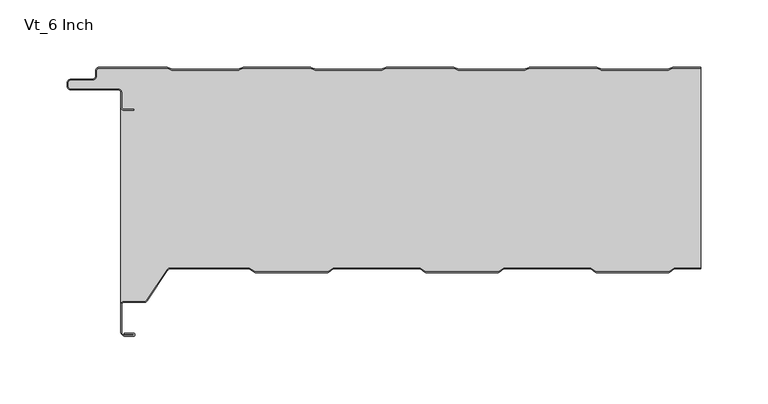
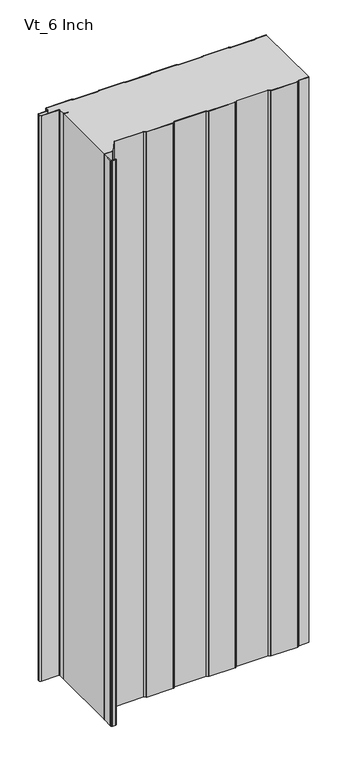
"""IFC4 building model written with IfcOpenShell, lengths in millimetres: plate geometry, KIP_R19_CP_KingSeam_Vt_Roof Panel : Vt_6 Inch."""

import ifcopenshell
import ifcopenshell.guid

model = None  # the IFC model being written
_history = None  # IfcOwnerHistory: only IFC2X3 demands one
_inside = {}  # id of a spatial element -> (the spatial element, [elements in it])
_under = {}  # id of a project, library or spatial element -> (it, [spatial elements below it])
_declared = {}  # id of a project -> (the project, [libraries it declares])
_typed = {}  # id of a type object -> (the type object, [elements of that type])
_made_of = {}  # id of a material, layer set ... -> (it, [elements and type objects made of it])


def new_model(schema):
    """Start an empty IFC model of exactly this schema.

    Asked for "IFC4X3", IfcOpenShell would pick the latest addendum, in which some entities
    have other attributes; the version numbers below select the first issue.
    IFC2X3 requires an IfcOwnerHistory on every rooted entity: one is made here for all.
    """
    global model, _history
    if schema == "IFC4X3":
        model = ifcopenshell.file(schema_version=(4, 3, 0, 0))
    else:
        model = ifcopenshell.file(schema=schema)
    _inside.clear()
    _under.clear()
    _declared.clear()
    _typed.clear()
    _made_of.clear()
    _history = None
    if model.schema == "IFC2X3":
        org = make("IfcOrganization", Name="unknown")
        user = make(
            "IfcPersonAndOrganization",
            ThePerson=make("IfcPerson", FamilyName="unknown"),
            TheOrganization=org,
        )
        app = make(
            "IfcApplication",
            ApplicationDeveloper=org,
            Version="unknown",
            ApplicationFullName="unknown",
            ApplicationIdentifier="unknown",
        )
        _history = make(
            "IfcOwnerHistory",
            OwningUser=user,
            OwningApplication=app,
            ChangeAction="ADDED",
            CreationDate=0,
        )
    return model


def make(cls, **values):
    """One entity of the class cls with the attributes given. An attribute that is None is left unset."""
    return model.create_entity(
        cls, **{name: value for name, value in values.items() if value is not None}
    )


def rooted(cls, **values):
    """An entity with a GlobalId (a new one), such as an element, a storey or a relation."""
    return make(cls, GlobalId=ifcopenshell.guid.new(), OwnerHistory=_history, **values)


def si_unit(unit_type, name, prefix=None):
    """IfcSIUnit, for example si_unit("LENGTHUNIT", "METRE", prefix="MILLI")."""
    return make("IfcSIUnit", UnitType=unit_type, Prefix=prefix, Name=name)


def assignment(units):
    """IfcUnitAssignment: the units of a project."""
    return None if units is None else make("IfcUnitAssignment", Units=units)


def point(xyz):
    """IfcCartesianPoint."""
    return None if xyz is None else make("IfcCartesianPoint", Coordinates=xyz)


def direction(xyz):
    """IfcDirection."""
    return None if xyz is None else make("IfcDirection", DirectionRatios=xyz)


def frame(location, z_axis=None, x_axis=None):
    """IfcAxis2Placement3D, a coordinate frame: its origin and axes. An axis left out is left unset."""
    return make(
        "IfcAxis2Placement3D",
        Location=point(location),
        Axis=direction(z_axis),
        RefDirection=direction(x_axis),
    )


def frame_2d(location, x_axis=None):
    """IfcAxis2Placement2D, a coordinate frame in the plane: its origin and x axis."""
    return make(
        "IfcAxis2Placement2D", Location=point(location), RefDirection=direction(x_axis)
    )


def origin():
    """The frame at (0, 0, 0) with its axes left unset."""
    return frame((0.0, 0.0, 0.0))


def origin_with_axes():
    """The frame at (0, 0, 0) with the z axis (0, 0, 1) and the x axis (1, 0, 0) written out."""
    return frame((0.0, 0.0, 0.0), z_axis=(0.0, 0.0, 1.0), x_axis=(1.0, 0.0, 0.0))


def place(relative_to, where):
    """IfcLocalPlacement: puts the frame where relative to a parent placement (None: the world)."""
    return make(
        "IfcLocalPlacement", PlacementRelTo=relative_to, RelativePlacement=where
    )


def context(
    kind, dimensions, precision=None, world=None, true_north=None, identifier=None
):
    """IfcGeometricRepresentationContext, for example the 3D "Model" context."""
    return make(
        "IfcGeometricRepresentationContext",
        ContextIdentifier=identifier,
        ContextType=kind,
        CoordinateSpaceDimension=dimensions,
        Precision=precision,
        WorldCoordinateSystem=world,
        TrueNorth=true_north,
    )


def project(units=None, contexts=None):
    """IfcProject with its units and contexts."""
    return rooted(
        "IfcProject",
        Name="project",
        RepresentationContexts=contexts,
        UnitsInContext=assignment(units),
    )


def spatial(cls, under=None, at=None, **own):
    """A site, building, storey or space (cls), placed at a placement, below another one or the project."""
    s = rooted(cls, ObjectPlacement=at, **own)
    if under is not None:
        _under.setdefault(under.id(), (under, []))[1].append(s)
    return s


def polyline(points):
    """IfcPolyline through the points."""
    return make("IfcPolyline", Points=[point(p) for p in points])


def circle_curve(where, radius):
    """IfcCircle in the frame where."""
    return make("IfcCircle", Position=where, Radius=radius)


def trimmed(basis, trim1, trim2, sense, master):
    """IfcTrimmedCurve: the piece of a basis curve between two trims."""
    return make(
        "IfcTrimmedCurve",
        BasisCurve=basis,
        Trim1=trim1,
        Trim2=trim2,
        SenseAgreement=sense,
        MasterRepresentation=master,
    )


def segment(curve, same_sense, transition):
    """IfcCompositeCurveSegment."""
    return make(
        "IfcCompositeCurveSegment",
        Transition=transition,
        SameSense=same_sense,
        ParentCurve=curve,
    )


def composite_curve(segments, self_intersect=None):
    """IfcCompositeCurve: segments joined end to end."""
    return make("IfcCompositeCurve", Segments=segments, SelfIntersect=self_intersect)


def outline(outer, holes=None, kind="AREA"):
    """IfcArbitraryClosedProfileDef: a profile drawn as a closed curve; with holes, ...WithVoids."""
    if holes is None:
        return make("IfcArbitraryClosedProfileDef", ProfileType=kind, OuterCurve=outer)
    return make(
        "IfcArbitraryProfileDefWithVoids",
        ProfileType=kind,
        OuterCurve=outer,
        InnerCurves=holes,
    )


def extrude(swept, where, along, depth):
    """IfcExtrudedAreaSolid: the profile swept, set in the frame where, extruded along a direction by depth."""
    return make(
        "IfcExtrudedAreaSolid",
        SweptArea=swept,
        Position=where,
        ExtrudedDirection=direction(along),
        Depth=depth,
    )


def shape(context_of_items, identifier, shape_type, items):
    """IfcShapeRepresentation: the items that make up one representation, for example the "Body"."""
    return make(
        "IfcShapeRepresentation",
        ContextOfItems=context_of_items,
        RepresentationIdentifier=identifier,
        RepresentationType=shape_type,
        Items=items,
    )


def source(mapping_origin, context_of_items, identifier, shape_type, items):
    """IfcRepresentationMap: a shape defined once, which mapped items show again and again."""
    return make(
        "IfcRepresentationMap",
        MappingOrigin=mapping_origin,
        MappedRepresentation=shape(context_of_items, identifier, shape_type, items),
    )


def transform(
    local_origin,
    x_axis=None,
    y_axis=None,
    z_axis=None,
    scale=None,
    scale2=None,
    scale3=None,
    uniform=True,
):
    """IfcCartesianTransformationOperator3D, or its non-uniform kind. x_axis, y_axis, z_axis: its Axis1, 2, 3."""
    if uniform:
        return make(
            "IfcCartesianTransformationOperator3D",
            Axis1=direction(x_axis),
            Axis2=direction(y_axis),
            LocalOrigin=point(local_origin),
            Scale=scale,
            Axis3=direction(z_axis),
        )
    return make(
        "IfcCartesianTransformationOperator3DnonUniform",
        Axis1=direction(x_axis),
        Axis2=direction(y_axis),
        LocalOrigin=point(local_origin),
        Scale=scale,
        Axis3=direction(z_axis),
        Scale2=scale2,
        Scale3=scale3,
    )


def mapped(mapping_source, mapping_target):
    """IfcMappedItem: shows the shape of a source again, moved by a transform."""
    return make(
        "IfcMappedItem", MappingSource=mapping_source, MappingTarget=mapping_target
    )


def made_of(thing, what):
    """Note that an element or type object is made of a material, layer set ...; save() writes the relation."""
    if what is not None:
        _made_of.setdefault(what.id(), (what, []))[1].append(thing)
    return thing


def element(
    cls,
    number,
    at=None,
    inside=None,
    cuts=None,
    type_object=None,
    material=None,
    context=None,
    identifier="Body",
    shape_type=None,
    held_by="IfcProductDefinitionShape",
    body=None,
    shapes=None,
    **own,
):
    """One element of the class cls, such as IfcWall. Its Tag is "e" and its number.

    at: its placement. inside: the storey or other place that contains it. cuts: it is an
    opening in that element (IfcRelVoidsElement). A single representation is given by context,
    identifier, shape_type and body (its items); several are given by shapes. held_by: the class
    of the entity that holds the representations. save() writes the other relations.
    """
    e = rooted(cls, Tag="e%d" % number, ObjectPlacement=at, **own)
    if body is not None:
        shapes = [shape(context, identifier, shape_type, body)]
    if shapes is not None:
        e.Representation = make(held_by, Representations=shapes)
    if inside is not None:
        _inside.setdefault(inside.id(), (inside, []))[1].append(e)
    if cuts is not None:
        rooted(
            "IfcRelVoidsElement", RelatingBuildingElement=cuts, RelatedOpeningElement=e
        )
    if type_object is not None:
        _typed.setdefault(type_object.id(), (type_object, []))[1].append(e)
    return made_of(e, material)


def aggregate(whole, parts):
    """IfcRelAggregates: a whole, such as a stair, and the parts it consists of."""
    return rooted("IfcRelAggregates", RelatingObject=whole, RelatedObjects=parts)


def save(model, path):
    """Write the relations noted so far, then the file.

    IfcRelAggregates (storeys below a building ...), IfcRelContainedInSpatialStructure (elements
    in a storey), IfcRelDefinesByType, IfcRelAssociatesMaterial and IfcRelDeclares: one each for
    every whole, place, type object, material and project.
    """
    for whole, parts in _under.values():
        aggregate(whole, parts)
    for where, things in _inside.values():
        rooted(
            "IfcRelContainedInSpatialStructure",
            RelatedElements=things,
            RelatingStructure=where,
        )
    for kind, things in _typed.values():
        rooted("IfcRelDefinesByType", RelatedObjects=things, RelatingType=kind)
    for what, things in _made_of.values():
        rooted("IfcRelAssociatesMaterial", RelatedObjects=things, RelatingMaterial=what)
    for by, libraries in _declared.values():
        rooted("IfcRelDeclares", RelatingContext=by, RelatedDefinitions=libraries)
    model.write(path)


def vt_6_inch_caa78155(model_context):
    return source(origin(), model_context, "Body", "SweptSolid", [
        extrude(outline(composite_curve([segment(trimmed(circle_curve(frame_2d((-213.9200605, -30.0)), 2.0), [point((-213.9200605, -32.0))], [point((-215.9200605, -30.0))], False, "CARTESIAN"), True, "CONTINUOUS"), segment(polyline([(-215.9200605, -30.0), (-215.9200605, -18.5)]), True, "CONTINUOUS"), segment(trimmed(circle_curve(frame_2d((-217.4200605, -18.5)), 1.5), [point((-215.9200605, -18.5))], [point((-217.4200605, -17.0))], True, "CARTESIAN"), True, "CONTINUOUS"), segment(polyline([(-217.4200605, -17.0), (-252.9200605, -17.0)]), True, "CONTINUOUS"), segment(trimmed(circle_curve(frame_2d((-252.9200605, -14.0)), 3.0), [point((-252.9200605, -17.0))], [point((-255.9200605, -14.0))], False, "CARTESIAN"), True, "CONTINUOUS"), segment(polyline([(-255.9200605, -14.0), (-255.9200605, -12.0)]), True, "CONTINUOUS"), segment(trimmed(circle_curve(frame_2d((-252.9200605, -12.0)), 3.0), [point((-255.9200605, -12.0))], [point((-252.9200605, -9.0))], False, "CARTESIAN"), True, "CONTINUOUS"), segment(polyline([(-252.9200605, -9.0), (-237.2042607, -9.0)]), True, "CONTINUOUS"), segment(trimmed(circle_curve(frame_2d((-237.2042607, -6.5)), 2.5), [point((-237.2042607, -9.0))], [point((-234.7042607, -6.5))], True, "CARTESIAN"), True, "CONTINUOUS"), segment(polyline([(-234.7042607, -6.5), (-234.7042607, -3.0)]), True, "CONTINUOUS"), segment(trimmed(circle_curve(frame_2d((-231.7042607, -3.0)), 3.0), [point((-234.7042607, -3.0))], [point((-231.7042607, 0.0))], False, "CARTESIAN"), True, "CONTINUOUS"), segment(polyline([(-231.7042607, 0.0), (-181.9469381, 0.0)]), True, "CONTINUOUS"), segment(trimmed(circle_curve(frame_2d((-181.9469381, -3.2)), 3.2), [point((-181.9469381, 0.0))], [point((-180.677843, -0.2624164))], False, "CARTESIAN"), True, "CONTINUOUS"), segment(polyline([(-180.677843, -0.2624164), (-178.2877438, -1.2949872)]), True, "CONTINUOUS"), segment(trimmed(circle_curve(frame_2d((-177.2962632, 1.0)), 2.5), [point((-178.2877438, -1.2949872))], [point((-177.2962632, -1.5))], True, "CARTESIAN"), True, "CONTINUOUS"), segment(polyline([(-177.2962632, -1.5), (-128.9122581, -1.5)]), True, "CONTINUOUS"), segment(trimmed(circle_curve(frame_2d((-128.9122581, 1.0)), 2.5), [point((-128.9122581, -1.5))], [point((-127.9207775, -1.2949872))], True, "CARTESIAN"), True, "CONTINUOUS"), segment(polyline([(-127.9207775, -1.2949872), (-125.5306783, -0.2624164)]), True, "CONTINUOUS"), segment(trimmed(circle_curve(frame_2d((-124.2615832, -3.2)), 3.2), [point((-125.5306783, -0.2624164))], [point((-124.2615832, 0.0))], False, "CARTESIAN"), True, "CONTINUOUS"), segment(polyline([(-124.2615832, 0.0), (-75.3469381, 0.0)]), True, "CONTINUOUS"), segment(trimmed(circle_curve(frame_2d((-75.3469381, -3.2)), 3.2), [point((-75.3469381, 0.0))], [point((-74.077843, -0.2624164))], False, "CARTESIAN"), True, "CONTINUOUS"), segment(polyline([(-74.077843, -0.2624164), (-71.6877438, -1.2949872)]), True, "CONTINUOUS"), segment(trimmed(circle_curve(frame_2d((-70.6962632, 1.0)), 2.5), [point((-71.6877438, -1.2949872))], [point((-70.6962632, -1.5))], True, "CARTESIAN"), True, "CONTINUOUS"), segment(polyline([(-70.6962632, -1.5), (-22.3122581, -1.5)]), True, "CONTINUOUS"), segment(trimmed(circle_curve(frame_2d((-22.3122581, 1.0)), 2.5), [point((-22.3122581, -1.5))], [point((-21.3207775, -1.2949872))], True, "CARTESIAN"), True, "CONTINUOUS"), segment(polyline([(-21.3207775, -1.2949872), (-18.9306783, -0.2624164)]), True, "CONTINUOUS"), segment(trimmed(circle_curve(frame_2d((-17.6615832, -3.2)), 3.2), [point((-18.9306783, -0.2624164))], [point((-17.6615832, 0.0))], False, "CARTESIAN"), True, "CONTINUOUS"), segment(polyline([(-17.6615832, 0.0), (31.2530619, 0.0)]), True, "CONTINUOUS"), segment(trimmed(circle_curve(frame_2d((31.2530619, -3.2)), 3.2), [point((31.2530619, 0.0))], [point((32.522157, -0.2624164))], False, "CARTESIAN"), True, "CONTINUOUS"), segment(polyline([(32.522157, -0.2624164), (34.9122562, -1.2949872)]), True, "CONTINUOUS"), segment(trimmed(circle_curve(frame_2d((35.9037368, 1.0)), 2.5), [point((34.9122562, -1.2949872))], [point((35.9037368, -1.5))], True, "CARTESIAN"), True, "CONTINUOUS"), segment(polyline([(35.9037368, -1.5), (84.2877419, -1.5)]), True, "CONTINUOUS"), segment(trimmed(circle_curve(frame_2d((84.2877419, 1.0)), 2.5), [point((84.2877419, -1.5))], [point((85.2792225, -1.2949872))], True, "CARTESIAN"), True, "CONTINUOUS"), segment(polyline([(85.2792225, -1.2949872), (87.6693217, -0.2624164)]), True, "CONTINUOUS"), segment(trimmed(circle_curve(frame_2d((88.9384168, -3.2)), 3.2), [point((87.6693217, -0.2624164))], [point((88.9384168, 0.0))], False, "CARTESIAN"), True, "CONTINUOUS"), segment(polyline([(88.9384168, 0.0), (137.8530619, 0.0)]), True, "CONTINUOUS"), segment(trimmed(circle_curve(frame_2d((137.8530619, -3.2)), 3.2), [point((137.8530619, 0.0))], [point((139.122157, -0.2624164))], False, "CARTESIAN"), True, "CONTINUOUS"), segment(polyline([(139.122157, -0.2624164), (141.5122562, -1.2949872)]), True, "CONTINUOUS"), segment(trimmed(circle_curve(frame_2d((142.5037368, 1.0)), 2.5), [point((141.5122562, -1.2949872))], [point((142.5037368, -1.5))], True, "CARTESIAN"), True, "CONTINUOUS"), segment(polyline([(142.5037368, -1.5), (190.8877419, -1.5)]), True, "CONTINUOUS"), segment(trimmed(circle_curve(frame_2d((190.8877419, 1.0)), 2.5), [point((190.8877419, -1.5))], [point((191.8792225, -1.2949872))], True, "CARTESIAN"), True, "CONTINUOUS"), segment(polyline([(191.8792225, -1.2949872), (194.2693217, -0.2624164)]), True, "CONTINUOUS"), segment(trimmed(circle_curve(frame_2d((195.5384168, -3.2)), 3.2), [point((194.2693217, -0.2624164))], [point((195.5384168, 0.0))], False, "CARTESIAN"), True, "CONTINUOUS"), segment(polyline([(195.5384168, 0.0), (215.9042607, 0.0), (215.9042607, -0.8), (195.5384168, -0.8)]), True, "CONTINUOUS"), segment(trimmed(circle_curve(frame_2d((195.5384168, -3.2)), 2.4), [point((195.5384168, -0.8))], [point((194.5865954, -0.9968123))], True, "CARTESIAN"), True, "CONTINUOUS"), segment(polyline([(194.5865954, -0.9968123), (192.1964962, -2.0293831)]), True, "CONTINUOUS"), segment(trimmed(circle_curve(frame_2d((190.8877419, 1.0)), 3.3), [point((192.1964962, -2.0293831))], [point((190.8877419, -2.3))], False, "CARTESIAN"), True, "CONTINUOUS"), segment(polyline([(190.8877419, -2.3), (142.5037368, -2.3)]), True, "CONTINUOUS"), segment(trimmed(circle_curve(frame_2d((142.5037368, 1.0)), 3.3), [point((142.5037368, -2.3))], [point((141.1949824, -2.0293831))], False, "CARTESIAN"), True, "CONTINUOUS"), segment(polyline([(141.1949824, -2.0293831), (138.8048832, -0.9968123)]), True, "CONTINUOUS"), segment(trimmed(circle_curve(frame_2d((137.8530619, -3.2)), 2.4), [point((138.8048832, -0.9968123))], [point((137.8530619, -0.8))], True, "CARTESIAN"), True, "CONTINUOUS"), segment(polyline([(137.8530619, -0.8), (88.9384168, -0.8)]), True, "CONTINUOUS"), segment(trimmed(circle_curve(frame_2d((88.9384168, -3.2)), 2.4), [point((88.9384168, -0.8))], [point((87.9865954, -0.9968123))], True, "CARTESIAN"), True, "CONTINUOUS"), segment(polyline([(87.9865954, -0.9968123), (85.5964962, -2.0293831)]), True, "CONTINUOUS"), segment(trimmed(circle_curve(frame_2d((84.2877419, 1.0)), 3.3), [point((85.5964962, -2.0293831))], [point((84.2877419, -2.3))], False, "CARTESIAN"), True, "CONTINUOUS"), segment(polyline([(84.2877419, -2.3), (35.9037368, -2.3)]), True, "CONTINUOUS"), segment(trimmed(circle_curve(frame_2d((35.9037368, 1.0)), 3.3), [point((35.9037368, -2.3))], [point((34.5949824, -2.0293831))], False, "CARTESIAN"), True, "CONTINUOUS"), segment(polyline([(34.5949824, -2.0293831), (32.2048832, -0.9968123)]), True, "CONTINUOUS"), segment(trimmed(circle_curve(frame_2d((31.2530619, -3.2)), 2.4), [point((32.2048832, -0.9968123))], [point((31.2530619, -0.8))], True, "CARTESIAN"), True, "CONTINUOUS"), segment(polyline([(31.2530619, -0.8), (-17.6615832, -0.8)]), True, "CONTINUOUS"), segment(trimmed(circle_curve(frame_2d((-17.6615832, -3.2)), 2.4), [point((-17.6615832, -0.8))], [point((-18.6134046, -0.9968123))], True, "CARTESIAN"), True, "CONTINUOUS"), segment(polyline([(-18.6134046, -0.9968123), (-21.0035038, -2.0293831)]), True, "CONTINUOUS"), segment(trimmed(circle_curve(frame_2d((-22.3122581, 1.0)), 3.3), [point((-21.0035038, -2.0293831))], [point((-22.3122581, -2.3))], False, "CARTESIAN"), True, "CONTINUOUS"), segment(polyline([(-22.3122581, -2.3), (-70.6962632, -2.3)]), True, "CONTINUOUS"), segment(trimmed(circle_curve(frame_2d((-70.6962632, 1.0)), 3.3), [point((-70.6962632, -2.3))], [point((-72.0050176, -2.0293831))], False, "CARTESIAN"), True, "CONTINUOUS"), segment(polyline([(-72.0050176, -2.0293831), (-74.3951168, -0.9968123)]), True, "CONTINUOUS"), segment(trimmed(circle_curve(frame_2d((-75.3469381, -3.2)), 2.4), [point((-74.3951168, -0.9968123))], [point((-75.3469381, -0.8))], True, "CARTESIAN"), True, "CONTINUOUS"), segment(polyline([(-75.3469381, -0.8), (-124.2615832, -0.8)]), True, "CONTINUOUS"), segment(trimmed(circle_curve(frame_2d((-124.2615832, -3.2)), 2.4), [point((-124.2615832, -0.8))], [point((-125.2134046, -0.9968123))], True, "CARTESIAN"), True, "CONTINUOUS"), segment(polyline([(-125.2134046, -0.9968123), (-127.6035038, -2.0293831)]), True, "CONTINUOUS"), segment(trimmed(circle_curve(frame_2d((-128.9122581, 1.0)), 3.3), [point((-127.6035038, -2.0293831))], [point((-128.9122581, -2.3))], False, "CARTESIAN"), True, "CONTINUOUS"), segment(polyline([(-128.9122581, -2.3), (-177.2962632, -2.3)]), True, "CONTINUOUS"), segment(trimmed(circle_curve(frame_2d((-177.2962632, 1.0)), 3.3), [point((-177.2962632, -2.3))], [point((-178.6050176, -2.0293831))], False, "CARTESIAN"), True, "CONTINUOUS"), segment(polyline([(-178.6050176, -2.0293831), (-180.9951168, -0.9968123)]), True, "CONTINUOUS"), segment(trimmed(circle_curve(frame_2d((-181.9469381, -3.2)), 2.4), [point((-180.9951168, -0.9968123))], [point((-181.9469381, -0.8))], True, "CARTESIAN"), True, "CONTINUOUS"), segment(polyline([(-181.9469381, -0.8), (-231.7042607, -0.8)]), True, "CONTINUOUS"), segment(trimmed(circle_curve(frame_2d((-232.1480113, -2.8161925)), 2.0644483), [point((-231.7042607, -0.8))], [point((-234.2042607, -3.0))], True, "CARTESIAN"), True, "CONTINUOUS"), segment(polyline([(-234.2042607, -3.0), (-234.2042607, -6.5)]), True, "CONTINUOUS"), segment(trimmed(circle_curve(frame_2d((-237.2042607, -6.5)), 3.0), [point((-234.2042607, -6.5))], [point((-237.2042607, -9.5))], False, "CARTESIAN"), True, "CONTINUOUS"), segment(polyline([(-237.2042607, -9.5), (-252.9200605, -9.5)]), True, "CONTINUOUS"), segment(trimmed(circle_curve(frame_2d((-252.9200605, -12.0)), 2.5), [point((-252.9200605, -9.5))], [point((-255.4200605, -12.0))], True, "CARTESIAN"), True, "CONTINUOUS"), segment(polyline([(-255.4200605, -12.0), (-255.4200605, -14.0)]), True, "CONTINUOUS"), segment(trimmed(circle_curve(frame_2d((-252.9200605, -14.0)), 2.5), [point((-255.4200605, -14.0))], [point((-252.9200605, -16.5))], True, "CARTESIAN"), True, "CONTINUOUS"), segment(polyline([(-252.9200605, -16.5), (-217.4200605, -16.5)]), True, "CONTINUOUS"), segment(trimmed(circle_curve(frame_2d((-217.4200605, -18.5)), 2.0), [point((-217.4200605, -16.5))], [point((-215.4200605, -18.5))], False, "CARTESIAN"), True, "CONTINUOUS"), segment(polyline([(-215.4200605, -18.5), (-215.4200605, -29.7)]), True, "CONTINUOUS"), segment(trimmed(circle_curve(frame_2d((-213.9200605, -29.7)), 1.5), [point((-215.4200605, -29.7))], [point((-213.9200605, -31.2))], True, "CARTESIAN"), True, "CONTINUOUS"), segment(polyline([(-213.9200605, -31.2), (-206.4200605, -31.2), (-206.4200605, -32.0), (-213.9200605, -32.0)]), True, "CONTINUOUS")], self_intersect=False)), origin_with_axes(), (0.0, 0.0, 1.0), 1219.2),
        extrude(outline(composite_curve([segment(polyline([(196.268218, -149.6158803), (215.9042607, -149.6158803), (215.9042607, -150.1158804), (196.2682176, -150.1158804), (192.8085228, -152.6158085)]), True, "CONTINUOUS"), segment(trimmed(circle_curve(frame_2d((191.929996, -151.3999998)), 1.5), [point((192.8085228, -152.6158085))], [point((191.9290246, -152.8999995))], False, "CARTESIAN"), True, "CONTINUOUS"), segment(polyline([(191.9290246, -152.8999995), (138.1799961, -152.8999995)]), True, "CONTINUOUS"), segment(trimmed(circle_curve(frame_2d((138.1799961, -151.3999995)), 1.5), [point((138.1799961, -152.8999995))], [point((137.3014693, -152.6158082))], False, "CARTESIAN"), True, "CONTINUOUS"), segment(polyline([(137.3014693, -152.6158082), (133.8417751, -150.1158804), (69.2682178, -150.1158804), (65.8085233, -152.6158087)]), True, "CONTINUOUS"), segment(trimmed(circle_curve(frame_2d((64.9299963, -151.3999998)), 1.5000003), [point((65.8085233, -152.6158087))], [point((64.9290248, -152.8999999))], False, "CARTESIAN"), True, "CONTINUOUS"), segment(polyline([(64.9290248, -152.8999999), (11.1799962, -152.8999999)]), True, "CONTINUOUS"), segment(trimmed(circle_curve(frame_2d((11.1799962, -151.3999998)), 1.5), [point((11.1799962, -152.8999999))], [point((10.3014694, -152.6158085))], False, "CARTESIAN"), True, "CONTINUOUS"), segment(polyline([(10.3014694, -152.6158085), (6.8417748, -150.1158804), (-57.7317821, -150.1158804), (-61.191477, -152.6158085)]), True, "CONTINUOUS"), segment(trimmed(circle_curve(frame_2d((-62.0700036, -151.3999999)), 1.4999999), [point((-61.191477, -152.6158085))], [point((-62.0709751, -152.8999995))], False, "CARTESIAN"), True, "CONTINUOUS"), segment(polyline([(-62.0709751, -152.8999995), (-115.8200035, -152.8999995)]), True, "CONTINUOUS"), segment(trimmed(circle_curve(frame_2d((-115.8200035, -151.3999994)), 1.5000001), [point((-115.8200035, -152.8999995))], [point((-116.6985303, -152.6158081))], False, "CARTESIAN"), True, "CONTINUOUS"), segment(polyline([(-116.6985303, -152.6158081), (-120.1582242, -150.1158806), (-179.3321527, -150.1158806)]), True, "CONTINUOUS"), segment(trimmed(circle_curve(frame_2d((-179.3321527, -152.1158804)), 1.9999997), [point((-179.3321527, -150.1158806))], [point((-181.0002085, -151.0124361))], True, "CARTESIAN"), True, "CONTINUOUS"), segment(polyline([(-181.0002085, -151.0124361), (-196.2036471, -173.9951861)]), True, "CONTINUOUS"), segment(trimmed(circle_curve(frame_2d((-198.2887169, -172.6158807)), 2.4999999), [point((-196.2036471, -173.9951861))], [point((-198.2887169, -175.1158806))], False, "CARTESIAN"), True, "CONTINUOUS"), segment(polyline([(-198.2887169, -175.1158806), (-213.8450035, -175.1158806)]), True, "CONTINUOUS"), segment(trimmed(circle_curve(frame_2d((-213.8450035, -176.7158806)), 1.6), [point((-213.8450035, -175.1158806))], [point((-215.4450035, -176.7158806))], True, "CARTESIAN"), True, "CONTINUOUS"), segment(polyline([(-215.4450035, -176.7158806), (-215.4450035, -197.5669597)]), True, "CONTINUOUS"), segment(trimmed(circle_curve(frame_2d((-214.2550035, -197.5669597)), 1.19), [point((-215.4450035, -197.5669597))], [point((-215.0964606, -198.4084168))], True, "CARTESIAN"), True, "CONTINUOUS"), segment(polyline([(-215.0964606, -198.4084168), (-214.0864397, -199.4184377)]), True, "CONTINUOUS"), segment(trimmed(circle_curve(frame_2d((-213.2449826, -198.5769807)), 1.19), [point((-214.0864397, -199.4184377))], [point((-213.2449826, -199.7669807))], True, "CARTESIAN"), True, "CONTINUOUS"), segment(polyline([(-213.2449826, -199.7669807), (-206.5150035, -199.7669807)]), True, "CONTINUOUS"), segment(trimmed(circle_curve(frame_2d((-206.5150035, -199.3669807)), 0.4), [point((-206.5150035, -199.7669807))], [point((-206.5150035, -198.9669807))], True, "CARTESIAN"), True, "CONTINUOUS"), segment(polyline([(-206.5150035, -198.9669807), (-213.2449826, -198.9669807), (-213.2449826, -198.1669807), (-206.5150035, -198.1669807)]), True, "CONTINUOUS"), segment(trimmed(circle_curve(frame_2d((-206.5150035, -199.2169807)), 1.05), [point((-206.5150035, -198.1669807))], [point((-206.5150035, -200.2669807))], False, "CARTESIAN"), True, "CONTINUOUS"), segment(polyline([(-206.5150035, -200.2669807), (-213.2449826, -200.2669807)]), True, "CONTINUOUS"), segment(trimmed(circle_curve(frame_2d((-213.2449826, -198.5769807)), 1.69), [point((-213.2449826, -200.2669807))], [point((-214.4399932, -199.771991))], False, "CARTESIAN"), True, "CONTINUOUS"), segment(polyline([(-214.4399932, -199.771991), (-215.450014, -198.76197)]), True, "CONTINUOUS"), segment(trimmed(circle_curve(frame_2d((-214.2550035, -197.5669597)), 1.6899998), [point((-215.450014, -198.76197))], [point((-215.9450033, -197.5669597))], False, "CARTESIAN"), True, "CONTINUOUS"), segment(polyline([(-215.9450033, -197.5669597), (-215.9450033, -176.7158805)]), True, "CONTINUOUS"), segment(trimmed(circle_curve(frame_2d((-213.8450035, -176.7158805)), 2.0999998), [point((-215.9450033, -176.7158805))], [point((-213.8450035, -174.6158807))], False, "CARTESIAN"), True, "CONTINUOUS"), segment(polyline([(-213.8450035, -174.6158807), (-198.2887169, -174.6158807)]), True, "CONTINUOUS"), segment(trimmed(circle_curve(frame_2d((-198.2887169, -172.6158807)), 2.0), [point((-198.2887169, -174.6158807))], [point((-196.620661, -173.719325))], True, "CARTESIAN"), True, "CONTINUOUS"), segment(polyline([(-196.620661, -173.719325), (-181.4172227, -150.7365749)]), True, "CONTINUOUS"), segment(trimmed(circle_curve(frame_2d((-179.3321527, -152.1158804)), 2.5), [point((-181.4172227, -150.7365749))], [point((-179.3321527, -149.6158803))], False, "CARTESIAN"), True, "CONTINUOUS"), segment(polyline([(-179.3321527, -149.6158803), (-120.1582251, -149.6158803), (-116.6985304, -152.1158086)]), True, "CONTINUOUS"), segment(trimmed(circle_curve(frame_2d((-115.8200035, -150.8999998)), 1.5000002), [point((-116.6985304, -152.1158086))], [point((-115.8200035, -152.3999999))], True, "CARTESIAN"), True, "CONTINUOUS"), segment(polyline([(-115.8200035, -152.3999999), (-62.0700036, -152.3999999)]), True, "CONTINUOUS"), segment(trimmed(circle_curve(frame_2d((-62.0700036, -150.8999999)), 1.5), [point((-62.0700036, -152.3999999))], [point((-61.1914768, -152.1158086))], True, "CARTESIAN"), True, "CONTINUOUS"), segment(polyline([(-61.1914768, -152.1158086), (-57.7317821, -149.6158803), (6.8417748, -149.6158803), (10.3014694, -152.1158087)]), True, "CONTINUOUS"), segment(trimmed(circle_curve(frame_2d((11.1799962, -150.9000001)), 1.5), [point((10.3014694, -152.1158087))], [point((11.1799962, -152.4000001))], True, "CARTESIAN"), True, "CONTINUOUS"), segment(polyline([(11.1799962, -152.4000001), (64.9299962, -152.4000001)]), True, "CONTINUOUS"), segment(trimmed(circle_curve(frame_2d((64.9299962, -150.9000001)), 1.5), [point((64.9299962, -152.4000001))], [point((65.808523, -152.1158088))], True, "CARTESIAN"), True, "CONTINUOUS"), segment(polyline([(65.808523, -152.1158088), (69.2682182, -149.6158803), (133.8417747, -149.6158803), (137.3014693, -152.1158086)]), True, "CONTINUOUS"), segment(trimmed(circle_curve(frame_2d((138.1799961, -150.8999999)), 1.5), [point((137.3014693, -152.1158086))], [point((138.1799961, -152.3999999))], True, "CARTESIAN"), True, "CONTINUOUS"), segment(polyline([(138.1799961, -152.3999999), (191.929996, -152.3999999)]), True, "CONTINUOUS"), segment(trimmed(circle_curve(frame_2d((191.929996, -150.9000001)), 1.4999998), [point((191.929996, -152.3999999))], [point((192.8085226, -152.1158087))], True, "CARTESIAN"), True, "CONTINUOUS"), segment(polyline([(192.8085226, -152.1158087), (196.268218, -149.6158803)]), True, "CONTINUOUS")], self_intersect=False)), origin_with_axes(), (0.0, 0.0, 1.0), 1219.2),
        extrude(outline(composite_curve([segment(polyline([(195.5542167, -0.7999994), (215.9042607, -0.7999994), (215.9042607, -149.6158809), (196.3089613, -149.6158809), (192.849266, -152.1158093)]), True, "CONTINUOUS"), segment(trimmed(circle_curve(frame_2d((191.9707393, -150.9000006)), 1.4999999), [point((192.849266, -152.1158093))], [point((191.9707393, -152.4000006))], False, "CARTESIAN"), True, "CONTINUOUS"), segment(polyline([(191.9707393, -152.4000006), (138.2207394, -152.4000006)]), True, "CONTINUOUS"), segment(trimmed(circle_curve(frame_2d((138.2207394, -150.9000005)), 1.5000001), [point((138.2207394, -152.4000006))], [point((137.3422125, -152.1158092))], False, "CARTESIAN"), True, "CONTINUOUS"), segment(polyline([(137.3422125, -152.1158092), (133.8825178, -149.6158809), (69.3089613, -149.6158809), (65.8492658, -152.1158092)]), True, "CONTINUOUS"), segment(trimmed(circle_curve(frame_2d((64.9707393, -150.9000006)), 1.4999997), [point((65.8492658, -152.1158092))], [point((64.9707393, -152.4000004))], False, "CARTESIAN"), True, "CONTINUOUS"), segment(polyline([(64.9707393, -152.4000004), (11.2207394, -152.4000004)]), True, "CONTINUOUS"), segment(trimmed(circle_curve(frame_2d((11.2207394, -150.9000003)), 1.5000001), [point((11.2207394, -152.4000004))], [point((10.3422125, -152.115809))], False, "CARTESIAN"), True, "CONTINUOUS"), segment(polyline([(10.3422125, -152.115809), (6.8825178, -149.6158807), (-57.6910391, -149.6158807), (-61.1507337, -152.115809)]), True, "CONTINUOUS"), segment(trimmed(circle_curve(frame_2d((-62.0292606, -150.9000001)), 1.5000002), [point((-61.1507337, -152.115809))], [point((-62.0292606, -152.4000003))], False, "CARTESIAN"), True, "CONTINUOUS"), segment(polyline([(-62.0292606, -152.4000003), (-115.7792606, -152.4000003)]), True, "CONTINUOUS"), segment(trimmed(circle_curve(frame_2d((-115.7792606, -150.9000002)), 1.5000002), [point((-115.7792606, -152.4000003))], [point((-116.6577875, -152.115809))], False, "CARTESIAN"), True, "CONTINUOUS"), segment(polyline([(-116.6577875, -152.115809), (-120.1174822, -149.6158807), (-179.2914098, -149.6158807)]), True, "CONTINUOUS"), segment(trimmed(circle_curve(frame_2d((-179.2914098, -152.1158809)), 2.5000002), [point((-179.2914098, -149.6158807))], [point((-181.3764799, -150.7365754))], True, "CARTESIAN"), True, "CONTINUOUS"), segment(polyline([(-181.3764799, -150.7365754), (-196.5799181, -173.7193254)]), True, "CONTINUOUS"), segment(trimmed(circle_curve(frame_2d((-198.2479741, -172.6158811)), 2.0), [point((-196.5799181, -173.7193254))], [point((-198.2479741, -174.6158811))], False, "CARTESIAN"), True, "CONTINUOUS"), segment(polyline([(-198.2479741, -174.6158811), (-213.8042606, -174.6158811)]), True, "CONTINUOUS"), segment(trimmed(circle_curve(frame_2d((-213.8042606, -176.7158809)), 2.0999999), [point((-213.8042606, -174.6158811))], [point((-215.9042605, -176.7158809))], True, "CARTESIAN"), True, "CONTINUOUS"), segment(polyline([(-215.9042605, -176.7158809), (-215.9042605, -29.9999994)]), True, "CONTINUOUS"), segment(trimmed(circle_curve(frame_2d((-213.9042605, -29.9999994)), 2.0), [point((-215.9042605, -29.9999994))], [point((-213.9042605, -31.9999994))], True, "CARTESIAN"), True, "CONTINUOUS"), segment(polyline([(-213.9042605, -31.9999994), (-206.4042605, -31.9999994), (-206.4042605, -31.1999994), (-213.9042605, -31.1999994)]), True, "CONTINUOUS"), segment(trimmed(circle_curve(frame_2d((-213.9042605, -29.6999994)), 1.5), [point((-213.9042605, -31.1999994))], [point((-215.4042605, -29.6999994))], False, "CARTESIAN"), True, "CONTINUOUS"), segment(polyline([(-215.4042605, -29.6999994), (-215.4042605, -18.4999994)]), True, "CONTINUOUS"), segment(trimmed(circle_curve(frame_2d((-217.4042605, -18.4999994)), 2.0), [point((-215.4042605, -18.4999994))], [point((-217.4042605, -16.4999994))], True, "CARTESIAN"), True, "CONTINUOUS"), segment(polyline([(-217.4042605, -16.4999994), (-252.9042605, -16.4999994)]), True, "CONTINUOUS"), segment(trimmed(circle_curve(frame_2d((-252.9042605, -13.9999994)), 2.5), [point((-252.9042605, -16.4999994))], [point((-255.4042605, -13.9999994))], False, "CARTESIAN"), True, "CONTINUOUS"), segment(polyline([(-255.4042605, -13.9999994), (-255.4042605, -11.9999994)]), True, "CONTINUOUS"), segment(trimmed(circle_curve(frame_2d((-252.9042605, -11.9999994)), 2.5), [point((-255.4042605, -11.9999994))], [point((-252.9042605, -9.4999994))], False, "CARTESIAN"), True, "CONTINUOUS"), segment(polyline([(-252.9042605, -9.4999994), (-237.1884607, -9.4999994)]), True, "CONTINUOUS"), segment(trimmed(circle_curve(frame_2d((-237.1884607, -6.4999994)), 3.0), [point((-237.1884607, -9.4999994))], [point((-234.1884607, -6.4999994))], True, "CARTESIAN"), True, "CONTINUOUS"), segment(polyline([(-234.1884607, -6.4999994), (-234.1884607, -2.9999994)]), True, "CONTINUOUS"), segment(trimmed(circle_curve(frame_2d((-232.1322114, -2.8161919)), 2.0644483), [point((-234.1884607, -2.9999994))], [point((-231.6884607, -0.7999994))], False, "CARTESIAN"), True, "CONTINUOUS"), segment(polyline([(-231.6884607, -0.7999994), (-181.9311382, -0.7999994)]), True, "CONTINUOUS"), segment(trimmed(circle_curve(frame_2d((-181.9311382, -3.1999994)), 2.4), [point((-181.9311382, -0.7999994))], [point((-180.9793169, -0.9968117))], False, "CARTESIAN"), True, "CONTINUOUS"), segment(polyline([(-180.9793169, -0.9968117), (-178.5892176, -2.0293826)]), True, "CONTINUOUS"), segment(trimmed(circle_curve(frame_2d((-177.2804633, 1.0000006)), 3.3), [point((-178.5892176, -2.0293826))], [point((-177.2804633, -2.2999994))], True, "CARTESIAN"), True, "CONTINUOUS"), segment(polyline([(-177.2804633, -2.2999994), (-128.8964582, -2.2999994)]), True, "CONTINUOUS"), segment(trimmed(circle_curve(frame_2d((-128.8964582, 1.0000006)), 3.3), [point((-128.8964582, -2.2999994))], [point((-127.5877038, -2.0293826))], True, "CARTESIAN"), True, "CONTINUOUS"), segment(polyline([(-127.5877038, -2.0293826), (-125.1976046, -0.9968117)]), True, "CONTINUOUS"), segment(trimmed(circle_curve(frame_2d((-124.2457833, -3.1999994)), 2.4), [point((-125.1976046, -0.9968117))], [point((-124.2457833, -0.7999994))], False, "CARTESIAN"), True, "CONTINUOUS"), segment(polyline([(-124.2457833, -0.7999994), (-75.3311382, -0.7999994)]), True, "CONTINUOUS"), segment(trimmed(circle_curve(frame_2d((-75.3311382, -3.1999994)), 2.4), [point((-75.3311382, -0.7999994))], [point((-74.3793169, -0.9968117))], False, "CARTESIAN"), True, "CONTINUOUS"), segment(polyline([(-74.3793169, -0.9968117), (-71.9892176, -2.0293826)]), True, "CONTINUOUS"), segment(trimmed(circle_curve(frame_2d((-70.6804633, 1.0000006)), 3.3), [point((-71.9892176, -2.0293826))], [point((-70.6804633, -2.2999994))], True, "CARTESIAN"), True, "CONTINUOUS"), segment(polyline([(-70.6804633, -2.2999994), (-22.2964582, -2.2999994)]), True, "CONTINUOUS"), segment(trimmed(circle_curve(frame_2d((-22.2964582, 1.0000006)), 3.3), [point((-22.2964582, -2.2999994))], [point((-20.9877038, -2.0293826))], True, "CARTESIAN"), True, "CONTINUOUS"), segment(polyline([(-20.9877038, -2.0293826), (-18.5976046, -0.9968117)]), True, "CONTINUOUS"), segment(trimmed(circle_curve(frame_2d((-17.6457833, -3.1999994)), 2.4), [point((-18.5976046, -0.9968117))], [point((-17.6457833, -0.7999994))], False, "CARTESIAN"), True, "CONTINUOUS"), segment(polyline([(-17.6457833, -0.7999994), (31.2688618, -0.7999994)]), True, "CONTINUOUS"), segment(trimmed(circle_curve(frame_2d((31.2688618, -3.1999994)), 2.4), [point((31.2688618, -0.7999994))], [point((32.2206831, -0.9968117))], False, "CARTESIAN"), True, "CONTINUOUS"), segment(polyline([(32.2206831, -0.9968117), (34.6107824, -2.0293826)]), True, "CONTINUOUS"), segment(trimmed(circle_curve(frame_2d((35.9195367, 1.0000006)), 3.3), [point((34.6107824, -2.0293826))], [point((35.9195367, -2.2999994))], True, "CARTESIAN"), True, "CONTINUOUS"), segment(polyline([(35.9195367, -2.2999994), (84.3035418, -2.2999994)]), True, "CONTINUOUS"), segment(trimmed(circle_curve(frame_2d((84.3035418, 1.0000006)), 3.3), [point((84.3035418, -2.2999994))], [point((85.6122962, -2.0293826))], True, "CARTESIAN"), True, "CONTINUOUS"), segment(polyline([(85.6122962, -2.0293826), (88.0023954, -0.9968117)]), True, "CONTINUOUS"), segment(trimmed(circle_curve(frame_2d((88.9542167, -3.1999994)), 2.4), [point((88.0023954, -0.9968117))], [point((88.9542167, -0.7999994))], False, "CARTESIAN"), True, "CONTINUOUS"), segment(polyline([(88.9542167, -0.7999994), (137.8688618, -0.7999994)]), True, "CONTINUOUS"), segment(trimmed(circle_curve(frame_2d((137.8688618, -3.1999994)), 2.4), [point((137.8688618, -0.7999994))], [point((138.8206831, -0.9968117))], False, "CARTESIAN"), True, "CONTINUOUS"), segment(polyline([(138.8206831, -0.9968117), (141.2107824, -2.0293826)]), True, "CONTINUOUS"), segment(trimmed(circle_curve(frame_2d((142.5195367, 1.0000006)), 3.3), [point((141.2107824, -2.0293826))], [point((142.5195367, -2.2999994))], True, "CARTESIAN"), True, "CONTINUOUS"), segment(polyline([(142.5195367, -2.2999994), (190.9035418, -2.2999994)]), True, "CONTINUOUS"), segment(trimmed(circle_curve(frame_2d((190.9035418, 1.0000006)), 3.3), [point((190.9035418, -2.2999994))], [point((192.2122962, -2.0293826))], True, "CARTESIAN"), True, "CONTINUOUS"), segment(polyline([(192.2122962, -2.0293826), (194.6023954, -0.9968117)]), True, "CONTINUOUS"), segment(trimmed(circle_curve(frame_2d((195.5542167, -3.1999994)), 2.4), [point((194.6023954, -0.9968117))], [point((195.5542167, -0.7999994))], False, "CARTESIAN"), True, "CONTINUOUS")], self_intersect=False)), origin_with_axes(), (0.0, 0.0, 1.0), 1219.2),
    ])


if __name__ == "__main__":
    model = new_model("IFC4")
    model_context = context("Model", 3, world=origin())
    ifc_project = project(units=[si_unit("LENGTHUNIT", "METRE", prefix="MILLI")], contexts=[model_context])
    site = spatial("IfcSite", under=ifc_project)
    building = spatial("IfcBuilding", under=site)
    placement = place(None, origin())
    vt_6_inch_shape = vt_6_inch_caa78155(model_context)
    element("IfcPlate", 1, ObjectType="KIP_R19_CP_KingSeam_Vt_Roof Panel : Vt_6 Inch", at=placement, inside=building, context=model_context, shape_type="MappedRepresentation", body=[
        mapped(vt_6_inch_shape, transform((0.0, 0.0, 0.0), x_axis=(1.0, 0.0, 0.0), y_axis=(0.0, 1.0, 0.0), z_axis=(0.0, 0.0, 1.0))),
    ])
    save(model, "model.ifc")
